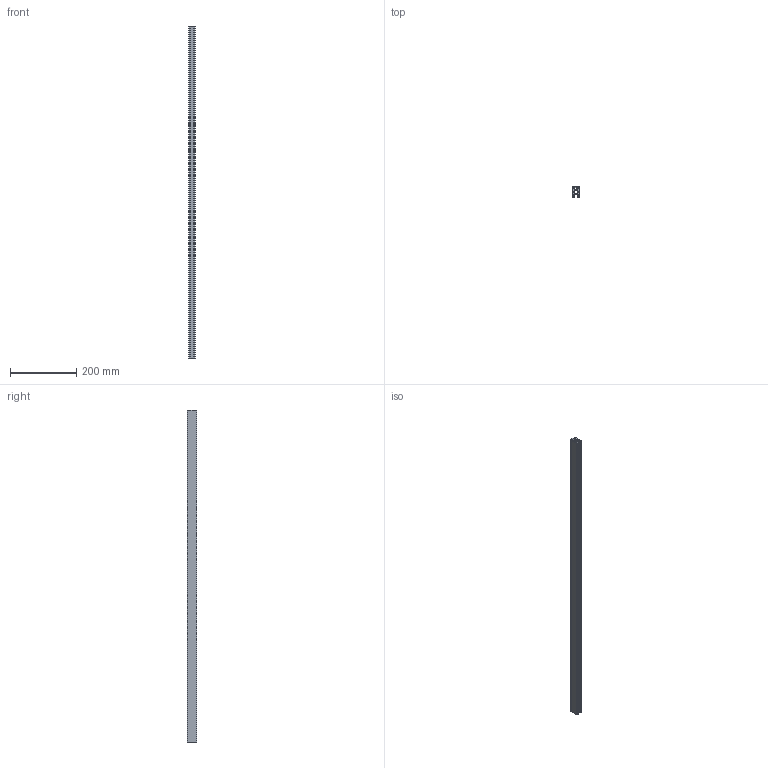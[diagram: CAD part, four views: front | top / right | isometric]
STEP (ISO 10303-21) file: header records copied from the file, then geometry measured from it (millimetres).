
FILE_DESCRIPTION (( 'STEP AP214' ), '1' );
FILE_NAME ('1.0203.1.sprs.STEP', '2025-06-16T16:21:32', ( '' ), ( '' ), 'SwSTEP 2.0', 'SolidWorks 2023', '' );
FILE_SCHEMA (( 'AUTOMOTIVE_DESIGN' ));
Length unit declared in the file: millimetre
Products named in the file (1): 1.0203.1.sprs
Bounding box: 20 x 30 x 1000 mm (x, y, z)
Volume: 303188.9 mm3; surface area: 208982.5 mm2
Topology: 1 solids, 1 shells, 57 faces, 165 edges, 110 vertices
Faces by surface type: cylinder 31, plane 26
Entity records: 1932 total; most frequent: DIRECTION 343, CARTESIAN_POINT 333, ORIENTED_EDGE 330, EDGE_CURVE 165, AXIS2_PLACEMENT_3D 120, VERTEX_POINT 110, LINE 103, VECTOR 103
